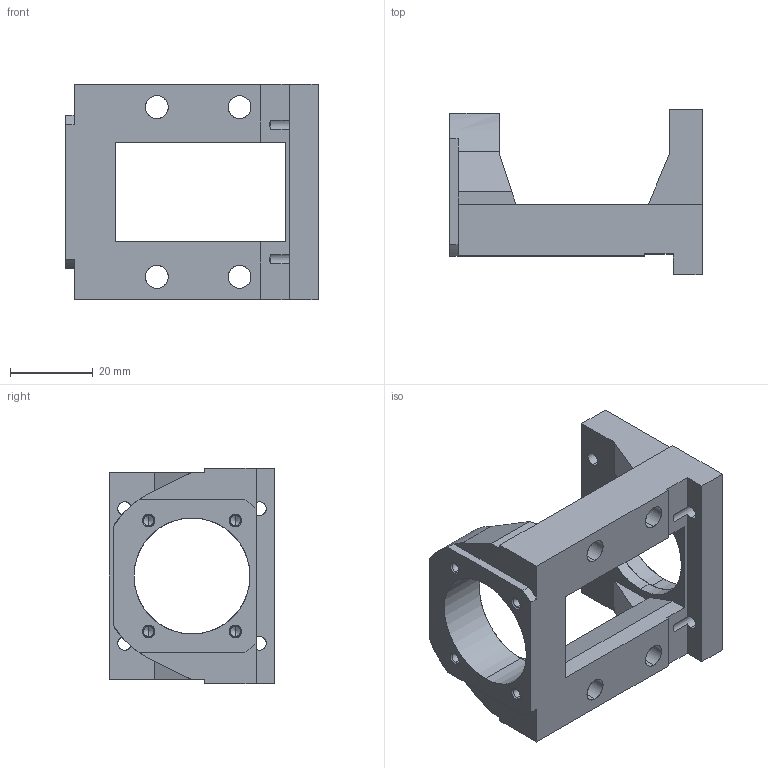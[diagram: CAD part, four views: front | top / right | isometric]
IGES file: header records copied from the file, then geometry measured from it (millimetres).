
Start section: SolidWorks IGES file using analytic representation for surfaces
Bounding box: 61 x 40 x 52 mm (x, y, z)
Surface area: 14689.8 mm2 (no closed solid volume)
Topology: 0 solids, 0 shells, 119 faces, 1850 edges, 1842 vertices
Faces by surface type: revolution 76, bspline 43
